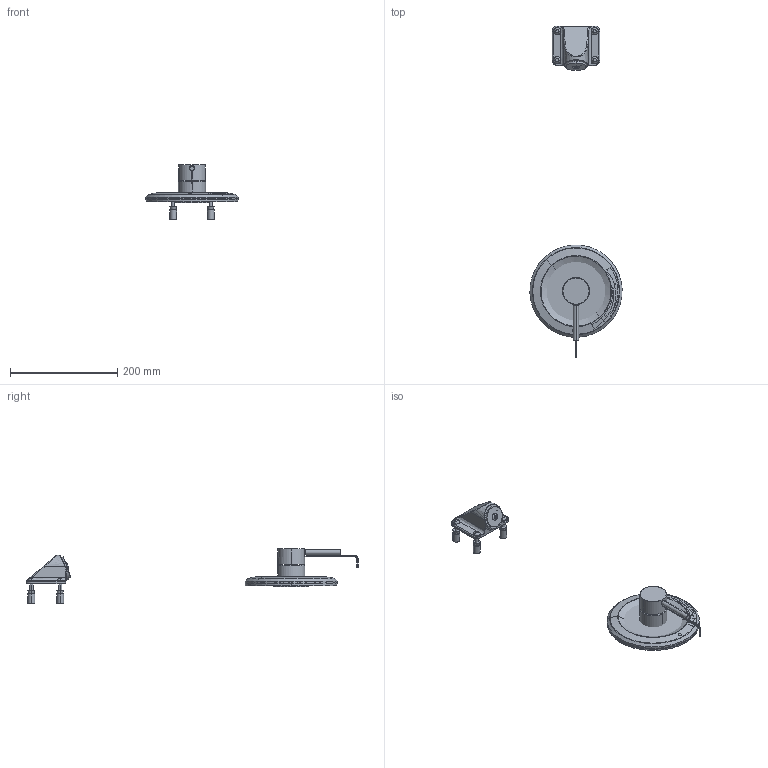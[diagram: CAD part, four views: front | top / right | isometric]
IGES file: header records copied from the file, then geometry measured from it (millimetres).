
Start section:  PTC IGES file: sh-tk1-05-000_sw0001.igs
Global section: file name: sh-tk1-05-000_sw0001.igs; native system: Creo Parametric by Parametric Technology Corporation; preprocessor: 2013050; author: jrodriguez; organization: Unknown; date: 20140227.134417; units: inch
Bounding box: 171.7 x 618.63 x 101.81 mm (x, y, z)
Surface area: 146917.1 mm2 (no closed solid volume)
Topology: 0 solids, 0 shells, 191 faces, 1296 edges, 1689 vertices
Faces by surface type: revolution 117, bspline 71, extrusion 3
